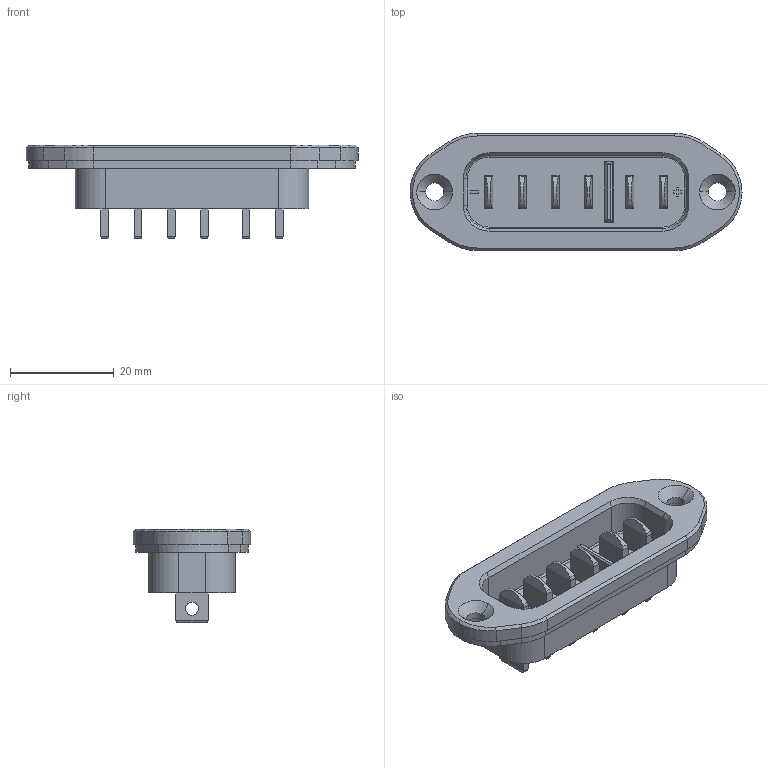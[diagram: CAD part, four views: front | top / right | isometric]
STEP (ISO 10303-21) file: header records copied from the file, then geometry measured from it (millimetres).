
FILE_DESCRIPTION((''),'2;1');
FILE_NAME('304B-6406PN3_C_1_ASM','2026-08-13T',('fros.liao'),(''),'CREO PARAMETRIC BY PTC INC, 2018360','CREO PARAMETRIC BY PTC INC, 2018360','');
FILE_SCHEMA(('CONFIG_CONTROL_DESIGN'));
Length unit declared in the file: millimetre
Products named in the file (4): MALE_RUBBER_STP_TSN1-01811-01XX; T5_DA_M-1_STP_TSN1-01811-01XX__; T1-6P-MALE_WTW; 304B-6406PN3_C_1_ASM
Assembly tree (8 placements, depth 2):
  304B-6406PN3_C_1_ASM
    MALE_RUBBER_STP_TSN1-01811-01XX
    T5_DA_M-1_STP_TSN1-01811-01XX__  x6
    T1-6P-MALE_WTW
Bounding box: 64 x 22.6 x 18.1 mm (x, y, z)
Volume: 6801.6 mm3; surface area: 8373.3 mm2
Topology: 8 solids, 8 shells, 528 faces, 1443 edges, 937 vertices
Faces by surface type: plane 354, cylinder 155, cone 15, torus 4
Entity records: 8685 total; most frequent: CARTESIAN_POINT 1557, ORIENTED_EDGE 1466, DIRECTION 1434, EDGE_CURVE 733, VECTOR 580, LINE 580, VERTEX_POINT 467, AXIS2_PLACEMENT_3D 427
